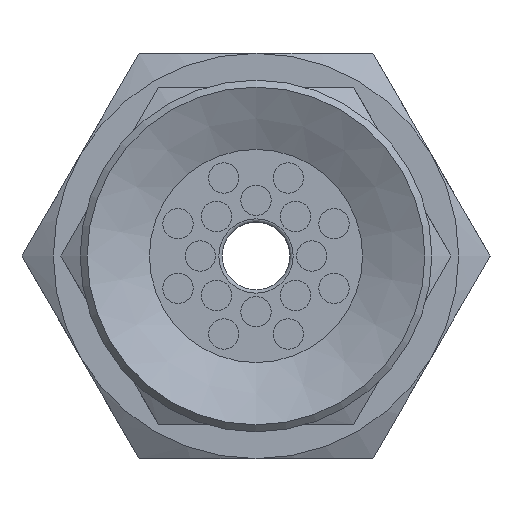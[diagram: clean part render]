
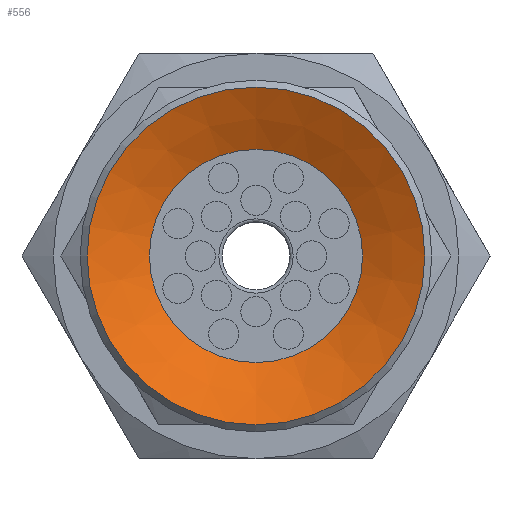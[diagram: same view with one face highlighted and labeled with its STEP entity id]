
A CAD part, front view. The second image highlights one B-rep face of the part: STEP entity #556.
In plain terms, the highlighted conical face has half-angle 64 degrees and reference radius 5 mm.
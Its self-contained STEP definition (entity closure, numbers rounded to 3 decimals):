
#556=ADVANCED_FACE('',(#881,#882),#883,.F.);
#881=FACE_BOUND('',#1274,.T.);
#882=FACE_OUTER_BOUND('',#1275,.T.);
#883=CONICAL_SURFACE('',#1276,5.0,1.117);
#1274=EDGE_LOOP('',(#1988));
#1275=EDGE_LOOP('',(#1989));
#1276=AXIS2_PLACEMENT_3D('',#1990,#1991,#1992);
#1988=ORIENTED_EDGE('',*,*,#2463,.T.);
#1989=ORIENTED_EDGE('',*,*,#2453,.F.);
#1990=CARTESIAN_POINT('',(-29.84,0.,0.));
#1991=DIRECTION('',(0.0,0.,-1.0));
#1992=DIRECTION('',(0.0,1.0,0.));
#2453=EDGE_CURVE('',#2796,#2796,#2797,.T.);
#2463=EDGE_CURVE('',#2816,#2816,#2817,.T.);
#2796=VERTEX_POINT('',#3496);
#2797=CIRCLE('',#3497,5.0);
#2816=VERTEX_POINT('',#3516);
#2817=CIRCLE('',#3517,3.155);
#3496=CARTESIAN_POINT('',(-29.84,-5.0,0.));
#3497=AXIS2_PLACEMENT_3D('',#4005,#4006,#4007);
#3516=CARTESIAN_POINT('',(-29.84,-3.155,0.9));
#3517=AXIS2_PLACEMENT_3D('',#4035,#4036,#4037);
#4005=CARTESIAN_POINT('',(-29.84,0.,0.));
#4006=DIRECTION('',(0.0,0.,1.0));
#4007=DIRECTION('',(0.0,-1.0,0.));
#4035=CARTESIAN_POINT('',(-29.84,0.,0.9));
#4036=DIRECTION('',(0.0,0.,1.0));
#4037=DIRECTION('',(0.0,-1.0,0.));
